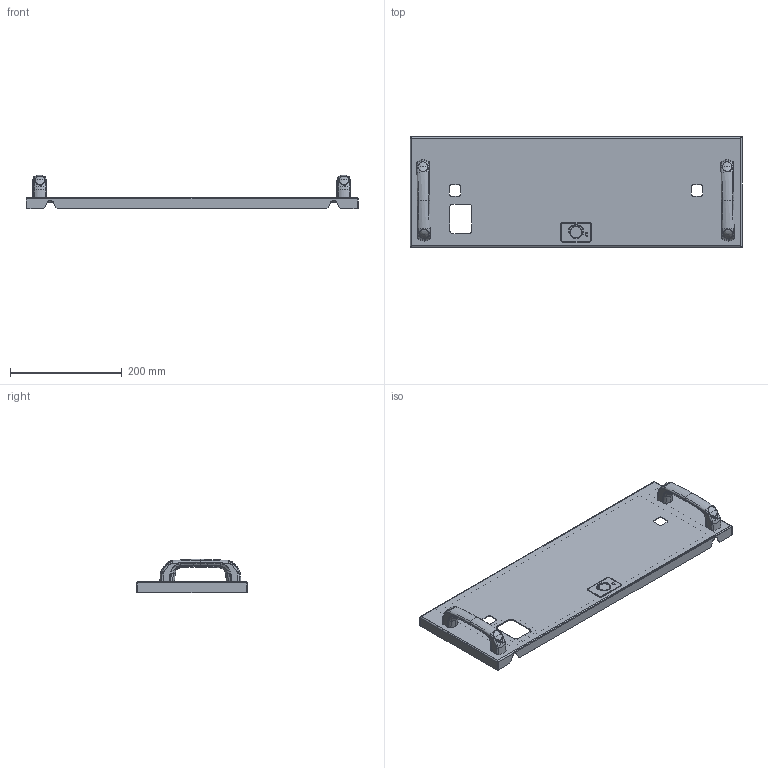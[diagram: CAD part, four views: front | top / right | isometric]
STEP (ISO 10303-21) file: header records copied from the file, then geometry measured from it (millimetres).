
FILE_DESCRIPTION(('CAx-IF Rec.Pracs.---Model Styling and Organization---1.2---2011-12-15','CAx-IF Rec.Pracs.---Geometric and Assembly Validation Properties---4.1---2014-06-16','CAx-IF Rec.Pracs.---PMI Polyline Presentation---2.0---2013-05-24'),'2;1');
FILE_NAME('R5M2W4M1BF-L.stp','2021-05-05T12:19:56+03:00',(''),(''),'STEP Interface 4.4 by CT CoreTechnologie','3D_Evolution4.4 by CT CoreTechnologie','');
FILE_SCHEMA(('AUTOMOTIVE_DESIGN { 1 0 10303 214 1 1 1 1 }'));
Length unit declared in the file: millimetre
Products named in the file (14): R5M2W4M1BF-L; AC00C148_AC00C148; 4.444.002; PR.DT477.120.02-poprawa; PR.DT477.120.01; Ì5-GOST 5915-70 (DIN 934)_straight; RB.1942.00.00.0_-01; RB.1166.00.04.0_-00; RB.1166.00.05.0; Ì6õ12-A5100231_straight; PF 7x14 RAMmcc 2.0_4å1; RB.1942.00.01.0_-01; RB.1166.00.02.0_¢ à 1; PF 3.5x7 RAMmcc 2.0_00
Assembly tree (17 placements, depth 3):
  R5M2W4M1BF-L
    AC00C148_AC00C148  x2
    4.444.002  x2
      PR.DT477.120.02-poprawa
      PR.DT477.120.01
    Ì5-GOST 5915-70 (DIN 934)_straight
    RB.1942.00.00.0_-01
      RB.1166.00.04.0_-00
      RB.1166.00.05.0  x2
      Ì6õ12-A5100231_straight
      PF 7x14 RAMmcc 2.0_4å1
      RB.1942.00.01.0_-01
      RB.1166.00.02.0_¢ à 1
      PF 3.5x7 RAMmcc 2.0_00
Bounding box: 594 x 197 x 60 mm (x, y, z)
Surface area: 393064.1 mm2 (no closed solid volume)
Topology: 0 solids, 19 shells, 1822 faces, 4562 edges, 2763 vertices
Faces by surface type: bspline 974, plane 551, cylinder 297
Entity records: 40203 total; most frequent: CARTESIAN_POINT 18443, ORIENTED_EDGE 4658, DIRECTION 4197, EDGE_CURVE 2329, AXIS2_PLACEMENT_3D 1580, VERTEX_POINT 1430, CIRCLE 1099, VECTOR 1037
